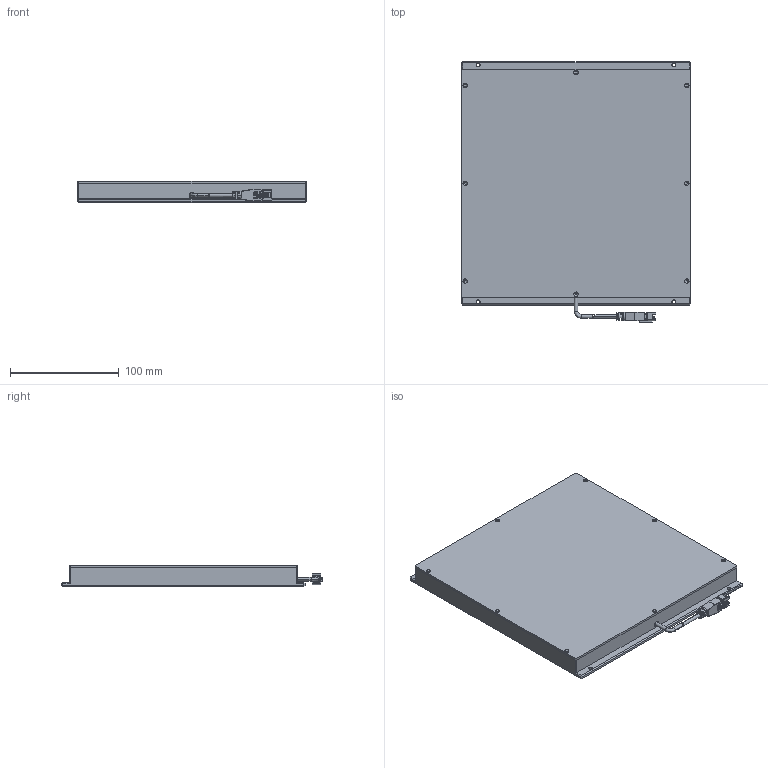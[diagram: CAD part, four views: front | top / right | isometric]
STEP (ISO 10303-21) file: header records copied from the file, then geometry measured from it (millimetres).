
FILE_DESCRIPTION (( 'STEP AP203' ), '1' );
FILE_NAME ('CRT-FLD200200-¼òÒ×3DÍ¼.STEP', '2021-11-24T01:24:54', ( 'Admin' ), ( '' ), 'SwSTEP 2.0', 'SolidWorks 2018', '' );
FILE_SCHEMA (( 'CONFIG_CONTROL_DESIGN' ));
Length unit declared in the file: millimetre
Products named in the file (1): CRT-FLD200200-潠眢3D芞
Bounding box: 210 x 239.95 x 20 mm (x, y, z)
Surface area: 112625.1 mm2 (no closed solid volume)
Topology: 0 solids, 4 shells, 249 faces, 728 edges, 465 vertices
Faces by surface type: plane 143, cylinder 74, cone 20, bspline 11, torus 1
Entity records: 8613 total; most frequent: CARTESIAN_POINT 2058, DIRECTION 1348, ORIENTED_EDGE 1265, EDGE_CURVE 726, VECTOR 480, LINE 480, VERTEX_POINT 465, AXIS2_PLACEMENT_3D 434
